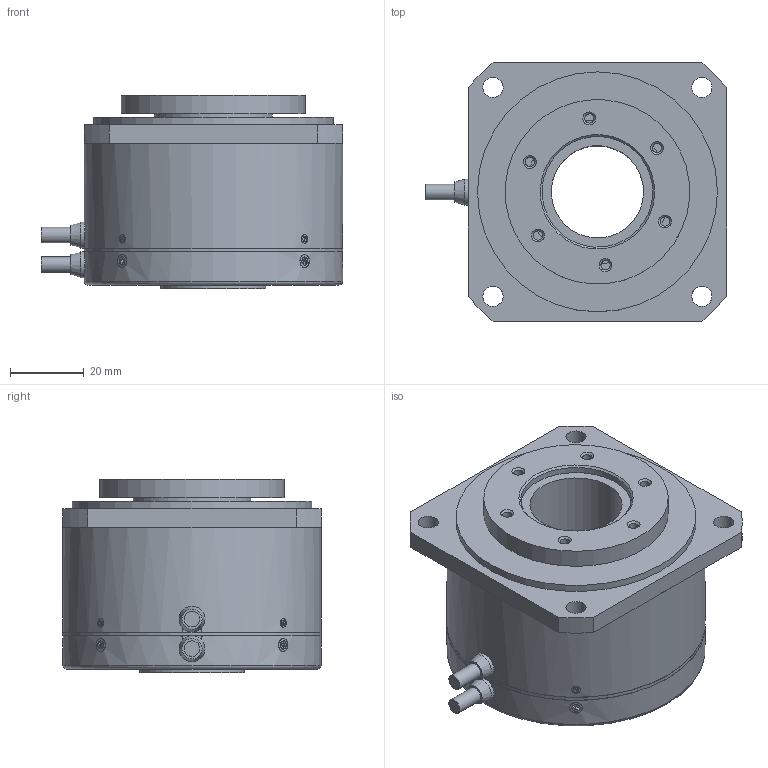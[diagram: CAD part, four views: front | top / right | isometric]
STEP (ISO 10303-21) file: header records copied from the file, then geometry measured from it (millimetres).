
FILE_DESCRIPTION(('STEP AP214'),'1');
FILE_NAME('MDH-7018.stp','2017-10-11T11:13:44',(' '),(' '),'Spatial InterOp 3D',' ',' ');
FILE_SCHEMA(('automotive_design'));
Length unit declared in the file: millimetre
Products named in the file (11): オイルシール; ケーブル; タッピングネジ M1.4x2.2; サラコネジ F3 M2x2.5; ﾌﾗﾝｼﾞ付深溝ﾍﾞｱﾘﾝｸﾞ F6806 2RU; ブッシュ; カバー; ベース; シャフト_7018; ケース_7018
Assembly tree (19 placements, depth 2):
  (unnamed)
    オイルシール
    ケーブル  x2
    タッピングネジ M1.4x2.2  x4
    サラコネジ F3 M2x2.5  x4
    ﾌﾗﾝｼﾞ付深溝ﾍﾞｱﾘﾝｸﾞ F6806 2RU  x2
    ブッシュ  x2
    カバー
    ベース
    シャフト_7018
    ケース_7018
Bounding box: 81.61 x 70 x 52.4 mm (x, y, z)
Volume: 71663.1 mm3; surface area: 66837 mm2
Topology: 19 solids, 21 shells, 411 faces, 957 edges, 622 vertices
Faces by surface type: plane 226, cylinder 133, cone 44, torus 4, bspline 4
Full cylindrical faces by diameter (mm): 1.4 x8, 1.5 x4, 1.6 x12, 2 x8, 2.2 x4, 2.3 x4, 2.5 x6, 3.5 x4, 4.2 x4, 5.5 x4, 7 x2, 25 x1, 28.5 x2, 30 x5, 30.5 x1, 32 x1, 33 x6, 35 x2, 36.5 x1, 39 x6, 42 x4, 45 x3, 45.5 x1, 46 x1, 50 x1, 65 x2, 66 x1, 68 x2, 70 x3
Entity records: 9333 total; most frequent: CARTESIAN_POINT 2047, DIRECTION 1079, ORIENTED_EDGE 836, AXIS2_PLACEMENT_3D 444, EDGE_LOOP 436, EDGE_CURVE 418, VERTEX_POINT 334, FACE_OUTER_BOUND 323
